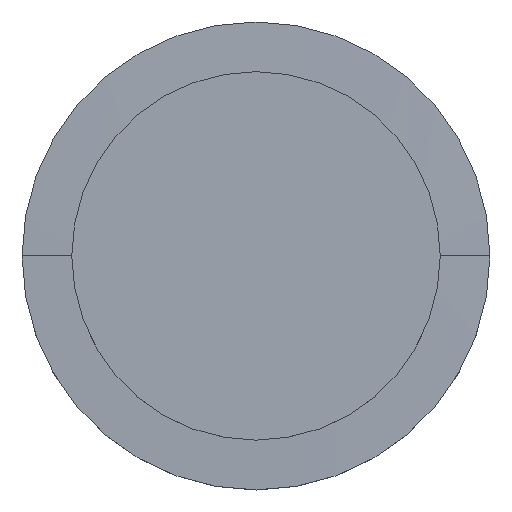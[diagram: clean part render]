
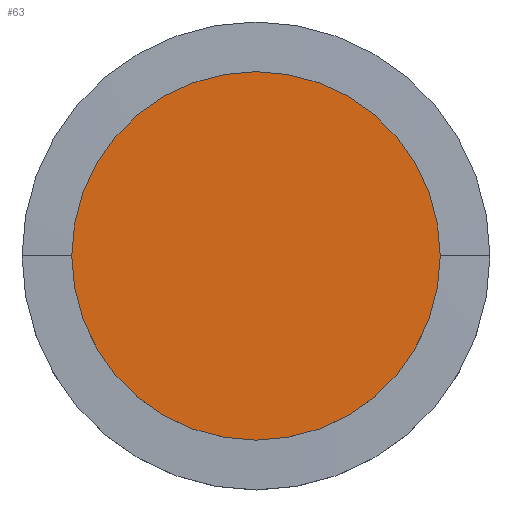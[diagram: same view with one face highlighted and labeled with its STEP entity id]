
A CAD part, top view. The second image highlights one B-rep face of the part: STEP entity #63.
In plain terms, the highlighted planar face has unit normal (0, 0, 1).
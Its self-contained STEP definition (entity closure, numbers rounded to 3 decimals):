
#63=ADVANCED_FACE('',(#83),#84,.T.);
#83=FACE_OUTER_BOUND('',#103,.T.);
#84=PLANE('',#104);
#103=EDGE_LOOP('',(#162,#163));
#104=AXIS2_PLACEMENT_3D('',#164,#165,#166);
#162=ORIENTED_EDGE('',*,*,#180,.T.);
#163=ORIENTED_EDGE('',*,*,#181,.T.);
#164=CARTESIAN_POINT('',(0.0,0.0,5.5));
#165=DIRECTION('',(0.0,0.0,1.0));
#166=DIRECTION('',(1.0,0.0,0.0));
#180=EDGE_CURVE('',#200,#204,#206,.T.);
#181=EDGE_CURVE('',#204,#200,#207,.T.);
#200=VERTEX_POINT('',#228);
#204=VERTEX_POINT('',#233);
#206=CIRCLE('',#236,10.0);
#207=CIRCLE('',#237,10.0);
#228=CARTESIAN_POINT('',(10.0,0.0,5.5));
#233=CARTESIAN_POINT('',(-10.0,0.,5.5));
#236=AXIS2_PLACEMENT_3D('',#270,#271,#272);
#237=AXIS2_PLACEMENT_3D('',#273,#274,#275);
#270=CARTESIAN_POINT('',(0.0,0.0,5.5));
#271=DIRECTION('',(0.0,0.0,1.0));
#272=DIRECTION('',(1.0,0.0,0.0));
#273=CARTESIAN_POINT('',(0.0,0.0,5.5));
#274=DIRECTION('',(0.0,0.0,1.0));
#275=DIRECTION('',(1.0,0.0,0.0));
